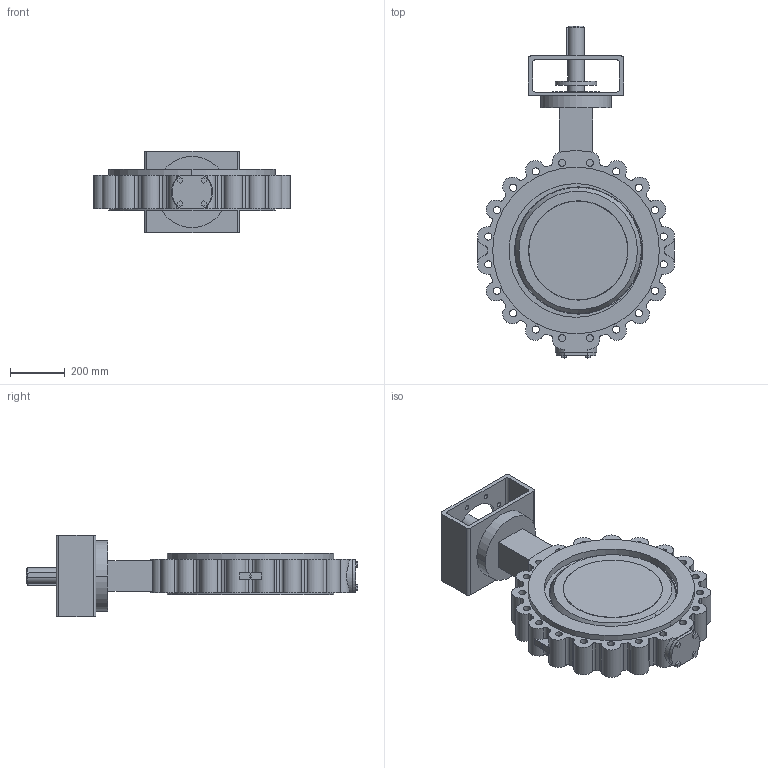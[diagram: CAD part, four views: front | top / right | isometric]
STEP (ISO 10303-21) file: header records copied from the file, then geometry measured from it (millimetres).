
FILE_DESCRIPTION( ( '' ), '1' );
FILE_NAME( 'F:/DE-SHS/TB/OR/04-Sonstiges/daten/files_3d/018_ZETRIX-PN10_freiesWellende/c000006366.stp', '2016-09-01T11:04:46', ( '' ), ( '' ), ' ', ' ', ' ' );
FILE_SCHEMA( ( 'CONFIG_CONTROL_DESIGN' ) );
Length unit declared in the file: millimetre
Products named in the file (1): 1
Bounding box: 721.87 x 1215.6 x 300 mm (x, y, z)
Volume: 48160379 mm3; surface area: 2456191.4 mm2
Topology: 1 solids, 1 shells, 332 faces, 902 edges, 602 vertices
Faces by surface type: cylinder 218, plane 106, sphere 4, cone 4
Entity records: 11578 total; most frequent: CARTESIAN_POINT 2607, DIRECTION 2002, ORIENTED_EDGE 1804, EDGE_CURVE 902, AXIS2_PLACEMENT_3D 795, VERTEX_POINT 602, CIRCLE 462, EDGE_LOOP 420
